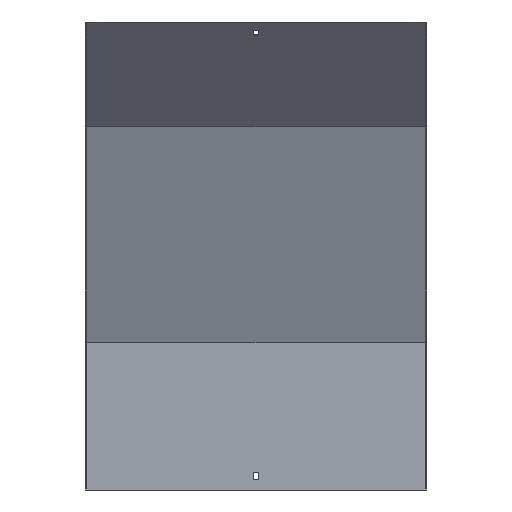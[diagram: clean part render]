
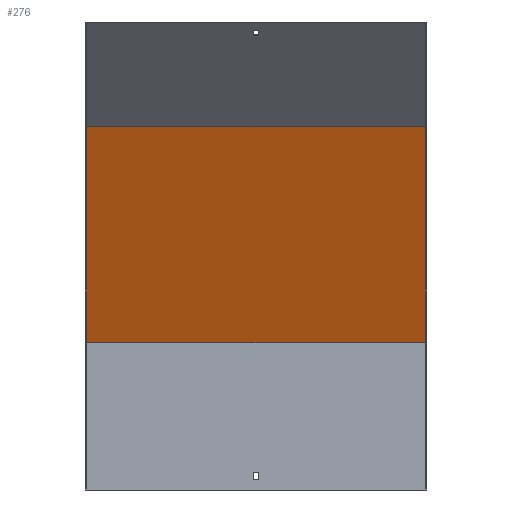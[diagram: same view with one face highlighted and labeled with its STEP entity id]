
A CAD part, front view. The second image highlights one B-rep face of the part: STEP entity #276.
In plain terms, the highlighted planar face has unit normal (0, -0.924, -0.383).
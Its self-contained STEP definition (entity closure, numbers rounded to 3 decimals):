
#1 = VERTEX_POINT ( 'NONE', #218 ) ;
#30 = DIRECTION ( 'NONE',  ( 0., -0.924, -0.383 ) ) ;
#39 = EDGE_CURVE ( 'NONE', #70, #590, #702, .T. ) ;
#69 = VECTOR ( 'NONE', #641, 1000. ) ;
#70 = VERTEX_POINT ( 'NONE', #828 ) ;
#84 = FACE_OUTER_BOUND ( 'NONE', #461, .T. ) ;
#139 = CARTESIAN_POINT ( 'NONE',  ( 200., 77.196, 31.976 ) ) ;
#150 = ORIENTED_EDGE ( 'NONE', *, *, #478, .T. ) ;
#218 = CARTESIAN_POINT ( 'NONE',  ( 200., 18.5, 173.68 ) ) ;
#223 = DIRECTION ( 'NONE',  ( 0., -0.383, 0.924 ) ) ;
#230 = ORIENTED_EDGE ( 'NONE', *, *, #627, .F. ) ;
#276 = ADVANCED_FACE ( 'NONE', ( #84 ), #350, .T. ) ;
#286 = CARTESIAN_POINT ( 'NONE',  ( 201.5, 17.092, 177.08 ) ) ;
#288 = VERTEX_POINT ( 'NONE', #680 ) ;
#348 = AXIS2_PLACEMENT_3D ( 'NONE', #286, #30, #421 ) ;
#350 = PLANE ( 'NONE',  #348 ) ;
#395 = CARTESIAN_POINT ( 'NONE',  ( 201.5, 18.5, 173.68 ) ) ;
#421 = DIRECTION ( 'NONE',  ( 0., 0.383, -0.924 ) ) ;
#426 = CARTESIAN_POINT ( 'NONE',  ( -200., 77.196, 31.976 ) ) ;
#433 = VECTOR ( 'NONE', #750, 1000. ) ;
#449 = DIRECTION ( 'NONE',  ( 0., -0.383, 0.924 ) ) ;
#461 = EDGE_LOOP ( 'NONE', ( #230, #601, #150, #728 ) ) ;
#478 = EDGE_CURVE ( 'NONE', #1, #70, #850, .T. ) ;
#499 = LINE ( 'NONE', #395, #69 ) ;
#566 = VECTOR ( 'NONE', #449, 1000. ) ;
#590 = VERTEX_POINT ( 'NONE', #741 ) ;
#601 = ORIENTED_EDGE ( 'NONE', *, *, #822, .F. ) ;
#605 = LINE ( 'NONE', #426, #683 ) ;
#627 = EDGE_CURVE ( 'NONE', #288, #590, #605, .T. ) ;
#641 = DIRECTION ( 'NONE',  ( -1., 0., 0. ) ) ;
#680 = CARTESIAN_POINT ( 'NONE',  ( -200., 18.5, 173.68 ) ) ;
#683 = VECTOR ( 'NONE', #223, 1000. ) ;
#702 = LINE ( 'NONE', #830, #433 ) ;
#728 = ORIENTED_EDGE ( 'NONE', *, *, #39, .T. ) ;
#741 = CARTESIAN_POINT ( 'NONE',  ( -200., -87.258, 429.003 ) ) ;
#750 = DIRECTION ( 'NONE',  ( -1., 0., 0. ) ) ;
#822 = EDGE_CURVE ( 'NONE', #1, #288, #499, .T. ) ;
#828 = CARTESIAN_POINT ( 'NONE',  ( 200., -87.258, 429.003 ) ) ;
#830 = CARTESIAN_POINT ( 'NONE',  ( 201.5, -87.258, 429.003 ) ) ;
#850 = LINE ( 'NONE', #139, #566 ) ;
